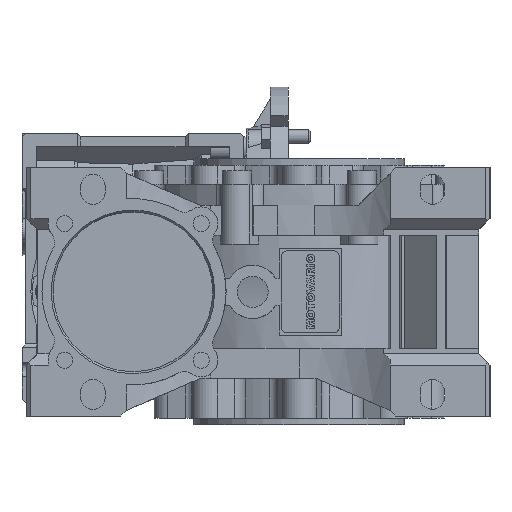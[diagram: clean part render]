
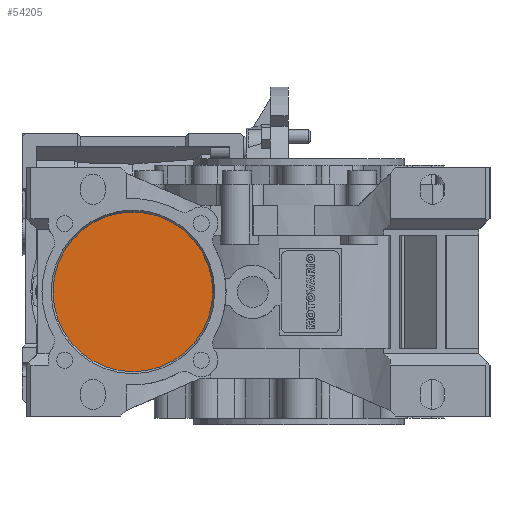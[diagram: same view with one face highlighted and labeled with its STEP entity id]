
A CAD part, left-side view. The second image highlights one B-rep face of the part: STEP entity #54205.
In plain terms, the highlighted planar face has unit normal (-1, 0, 0) as drawn and (0, 0, -1) by its records, which use the part's own axes.
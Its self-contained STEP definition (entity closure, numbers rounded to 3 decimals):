
#767=PLANE('',#57219);
#9685=CIRCLE('',#57218,36.);
#14646=ORIENTED_EDGE('',*,*,#24694,.F.);
#24694=EDGE_CURVE('',#29905,#29905,#9685,.T.);
#29905=VERTEX_POINT('',#76872);
#33166=EDGE_LOOP('',(#14646));
#35800=FACE_BOUND('',#33166,.T.);
#54205=ADVANCED_FACE('',(#35800),#767,.T.);
#57218=AXIS2_PLACEMENT_3D('',#76871,#64104,#64105);
#57219=AXIS2_PLACEMENT_3D('',#76873,#64106,#64107);
#64104=DIRECTION('',(0.,0.,1.));
#64105=DIRECTION('',(1.,0.,0.));
#64106=DIRECTION('',(0.,0.,-1.));
#64107=DIRECTION('',(-1.,0.,0.));
#76871=CARTESIAN_POINT('',(0.,75.,-87.5));
#76872=CARTESIAN_POINT('',(36.,75.,-87.5));
#76873=CARTESIAN_POINT('',(36.,75.,-87.5));
